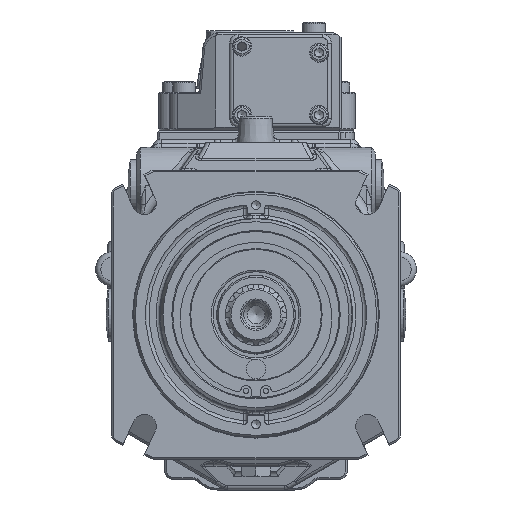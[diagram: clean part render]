
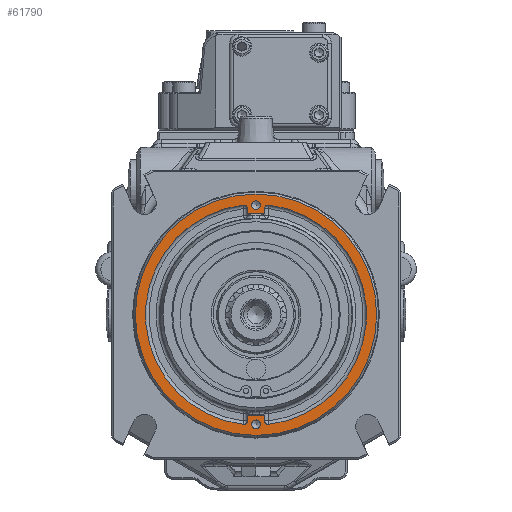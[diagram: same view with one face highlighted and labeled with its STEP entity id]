
A CAD part, front view. The second image highlights one B-rep face of the part: STEP entity #61790.
In plain terms, the highlighted planar face has unit normal (0, -1, 0).
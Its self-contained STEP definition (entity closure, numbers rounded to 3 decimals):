
#2481=FACE_BOUND('',#11678,.T.);
#2482=FACE_BOUND('',#11679,.T.);
#2483=FACE_BOUND('',#11680,.T.);
#7791=FACE_OUTER_BOUND('',#11677,.T.);
#11677=EDGE_LOOP('',(#53875));
#11678=EDGE_LOOP('',(#53876));
#11679=EDGE_LOOP('',(#53877));
#11680=EDGE_LOOP('',(#53878,#53879,#53880,#53881,#53882,#53883,#53884,#53885,
#53886,#53887,#53888,#53889));
#14734=CIRCLE('',#67578,2.459);
#14736=CIRCLE('',#67582,2.459);
#14743=CIRCLE('',#67593,68.845);
#14744=CIRCLE('',#67594,57.75);
#14745=CIRCLE('',#67595,2.);
#14746=CIRCLE('',#67596,63.);
#14747=CIRCLE('',#67597,2.);
#14748=CIRCLE('',#67598,57.75);
#14749=CIRCLE('',#67599,2.);
#14750=CIRCLE('',#67600,63.);
#14751=CIRCLE('',#67601,2.);
#19231=LINE('',#116915,#23713);
#19232=LINE('',#116919,#23714);
#19233=LINE('',#116927,#23715);
#19234=LINE('',#116931,#23716);
#23713=VECTOR('',#82833,10.);
#23714=VECTOR('',#82836,10.);
#23715=VECTOR('',#82843,10.);
#23716=VECTOR('',#82846,10.);
#29099=VERTEX_POINT('',#116855);
#29102=VERTEX_POINT('',#116864);
#29112=VERTEX_POINT('',#116911);
#29113=VERTEX_POINT('',#116913);
#29114=VERTEX_POINT('',#116914);
#29115=VERTEX_POINT('',#116916);
#29116=VERTEX_POINT('',#116918);
#29117=VERTEX_POINT('',#116920);
#29118=VERTEX_POINT('',#116922);
#29119=VERTEX_POINT('',#116924);
#29120=VERTEX_POINT('',#116926);
#29121=VERTEX_POINT('',#116928);
#29122=VERTEX_POINT('',#116930);
#29123=VERTEX_POINT('',#116932);
#29124=VERTEX_POINT('',#116934);
#37463=EDGE_CURVE('',#29099,#29099,#14734,.T.);
#37467=EDGE_CURVE('',#29102,#29102,#14736,.T.);
#37480=EDGE_CURVE('',#29112,#29112,#14743,.T.);
#37481=EDGE_CURVE('',#29113,#29114,#19231,.T.);
#37482=EDGE_CURVE('',#29115,#29113,#14744,.T.);
#37483=EDGE_CURVE('',#29115,#29116,#19232,.T.);
#37484=EDGE_CURVE('',#29116,#29117,#14745,.T.);
#37485=EDGE_CURVE('',#29117,#29118,#14746,.T.);
#37486=EDGE_CURVE('',#29119,#29118,#14747,.T.);
#37487=EDGE_CURVE('',#29119,#29120,#19233,.T.);
#37488=EDGE_CURVE('',#29121,#29120,#14748,.T.);
#37489=EDGE_CURVE('',#29122,#29121,#19234,.T.);
#37490=EDGE_CURVE('',#29122,#29123,#14749,.T.);
#37491=EDGE_CURVE('',#29124,#29123,#14750,.T.);
#37492=EDGE_CURVE('',#29114,#29124,#14751,.T.);
#53875=ORIENTED_EDGE('',*,*,#37480,.T.);
#53876=ORIENTED_EDGE('',*,*,#37463,.T.);
#53877=ORIENTED_EDGE('',*,*,#37467,.T.);
#53878=ORIENTED_EDGE('',*,*,#37481,.F.);
#53879=ORIENTED_EDGE('',*,*,#37482,.F.);
#53880=ORIENTED_EDGE('',*,*,#37483,.T.);
#53881=ORIENTED_EDGE('',*,*,#37484,.T.);
#53882=ORIENTED_EDGE('',*,*,#37485,.T.);
#53883=ORIENTED_EDGE('',*,*,#37486,.F.);
#53884=ORIENTED_EDGE('',*,*,#37487,.T.);
#53885=ORIENTED_EDGE('',*,*,#37488,.F.);
#53886=ORIENTED_EDGE('',*,*,#37489,.F.);
#53887=ORIENTED_EDGE('',*,*,#37490,.T.);
#53888=ORIENTED_EDGE('',*,*,#37491,.F.);
#53889=ORIENTED_EDGE('',*,*,#37492,.F.);
#58686=PLANE('',#67592);
#61790=ADVANCED_FACE('',(#7791,#2481,#2482,#2483),#58686,.F.);
#67578=AXIS2_PLACEMENT_3D('',#116856,#82797,#82798);
#67582=AXIS2_PLACEMENT_3D('',#116865,#82807,#82808);
#67592=AXIS2_PLACEMENT_3D('',#116910,#82829,#82830);
#67593=AXIS2_PLACEMENT_3D('',#116912,#82831,#82832);
#67594=AXIS2_PLACEMENT_3D('',#116917,#82834,#82835);
#67595=AXIS2_PLACEMENT_3D('',#116921,#82837,#82838);
#67596=AXIS2_PLACEMENT_3D('',#116923,#82839,#82840);
#67597=AXIS2_PLACEMENT_3D('',#116925,#82841,#82842);
#67598=AXIS2_PLACEMENT_3D('',#116929,#82844,#82845);
#67599=AXIS2_PLACEMENT_3D('',#116933,#82847,#82848);
#67600=AXIS2_PLACEMENT_3D('',#116935,#82849,#82850);
#67601=AXIS2_PLACEMENT_3D('',#116936,#82851,#82852);
#82797=DIRECTION('center_axis',(0.,1.,0.));
#82798=DIRECTION('ref_axis',(1.,0.,0.));
#82807=DIRECTION('center_axis',(0.,1.,0.));
#82808=DIRECTION('ref_axis',(1.,0.,0.));
#82829=DIRECTION('center_axis',(0.,1.,0.));
#82830=DIRECTION('ref_axis',(0.,0.,1.));
#82831=DIRECTION('center_axis',(0.,-1.,0.));
#82832=DIRECTION('ref_axis',(0.,0.,1.));
#82833=DIRECTION('',(0.,0.,-1.));
#82834=DIRECTION('center_axis',(0.,-1.,0.));
#82835=DIRECTION('ref_axis',(0.,0.,1.));
#82836=DIRECTION('',(0.,0.,-1.));
#82837=DIRECTION('center_axis',(0.,1.,0.));
#82838=DIRECTION('ref_axis',(1.,0.,0.));
#82839=DIRECTION('center_axis',(0.,1.,0.));
#82840=DIRECTION('ref_axis',(-1.,0.,0.));
#82841=DIRECTION('center_axis',(0.,-1.,0.));
#82842=DIRECTION('ref_axis',(1.,0.,0.));
#82843=DIRECTION('',(0.,0.,-1.));
#82844=DIRECTION('center_axis',(0.,-1.,0.));
#82845=DIRECTION('ref_axis',(0.,0.,1.));
#82846=DIRECTION('',(0.,0.,-1.));
#82847=DIRECTION('center_axis',(0.,1.,0.));
#82848=DIRECTION('ref_axis',(-1.,0.,0.));
#82849=DIRECTION('center_axis',(0.,-1.,0.));
#82850=DIRECTION('ref_axis',(1.,0.,0.));
#82851=DIRECTION('center_axis',(0.,-1.,0.));
#82852=DIRECTION('ref_axis',(-1.,0.,0.));
#116855=CARTESIAN_POINT('',(-2.459,-173.2,-62.5));
#116856=CARTESIAN_POINT('Origin',(0.,-173.2,-62.5));
#116864=CARTESIAN_POINT('',(-2.459,-173.2,62.5));
#116865=CARTESIAN_POINT('Origin',(0.,-173.2,62.5));
#116910=CARTESIAN_POINT('Origin',(0.,-173.2,63.298));
#116911=CARTESIAN_POINT('',(0.,-173.2,-68.845));
#116912=CARTESIAN_POINT('Origin',(0.,-173.2,0.));
#116913=CARTESIAN_POINT('',(5.,-173.2,-57.533));
#116914=CARTESIAN_POINT('',(5.,-173.2,-60.597));
#116915=CARTESIAN_POINT('',(5.,-173.2,5.708));
#116916=CARTESIAN_POINT('',(-5.,-173.2,-57.533));
#116917=CARTESIAN_POINT('Origin',(0.,-173.2,0.));
#116918=CARTESIAN_POINT('',(-5.,-173.2,-60.597));
#116919=CARTESIAN_POINT('',(-5.,-173.2,5.708));
#116920=CARTESIAN_POINT('',(-7.23,-173.2,-62.584));
#116921=CARTESIAN_POINT('Origin',(-7.,-173.2,-60.597));
#116922=CARTESIAN_POINT('',(-7.23,-173.2,62.584));
#116923=CARTESIAN_POINT('Origin',(0.,-173.2,0.));
#116924=CARTESIAN_POINT('',(-5.,-173.2,60.597));
#116925=CARTESIAN_POINT('Origin',(-7.,-173.2,60.597));
#116926=CARTESIAN_POINT('',(-5.,-173.2,57.533));
#116927=CARTESIAN_POINT('',(-5.,-173.2,62.292));
#116928=CARTESIAN_POINT('',(5.,-173.2,57.533));
#116929=CARTESIAN_POINT('Origin',(0.,-173.2,0.));
#116930=CARTESIAN_POINT('',(5.,-173.2,60.597));
#116931=CARTESIAN_POINT('',(5.,-173.2,62.292));
#116932=CARTESIAN_POINT('',(7.23,-173.2,62.584));
#116933=CARTESIAN_POINT('Origin',(7.,-173.2,60.597));
#116934=CARTESIAN_POINT('',(7.23,-173.2,-62.584));
#116935=CARTESIAN_POINT('Origin',(0.,-173.2,0.));
#116936=CARTESIAN_POINT('Origin',(7.,-173.2,-60.597));
